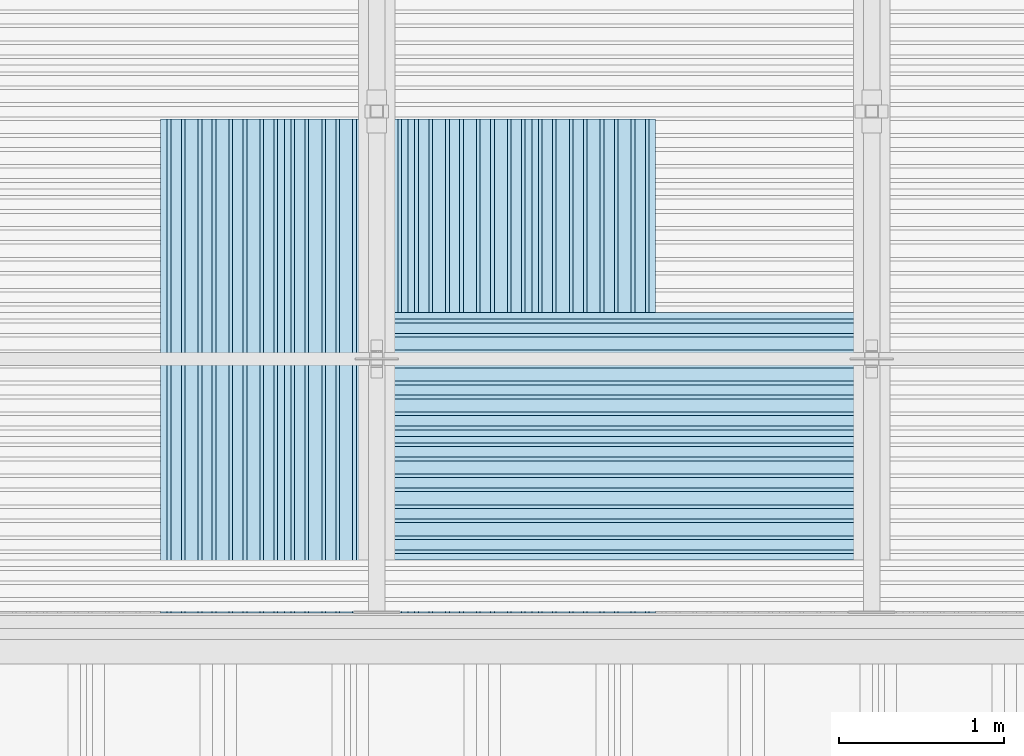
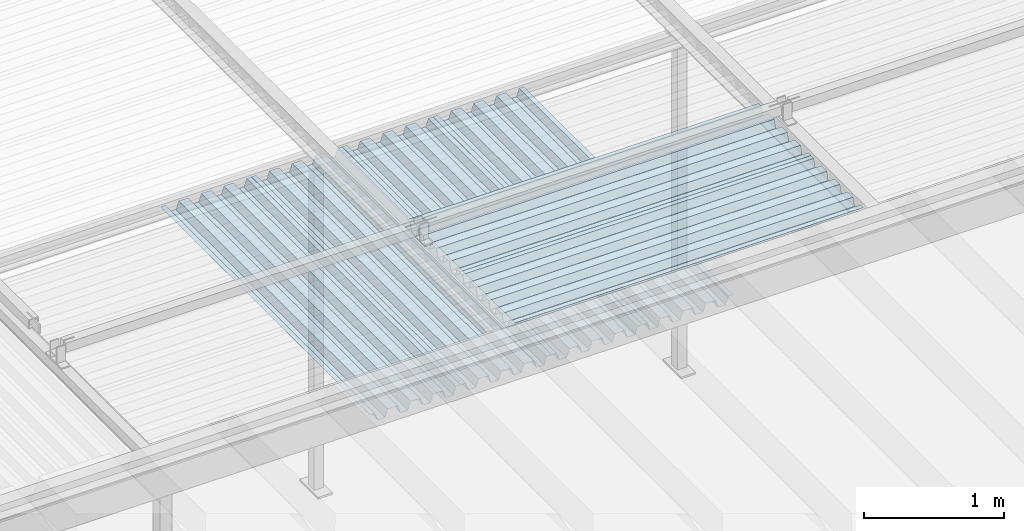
# One storey, part 69 of 98: 6 slabs.
"""IFC2X3 building model written with IfcOpenShell, lengths in millimetres."""

import ifcopenshell
import ifcopenshell.guid

model = None  # the IFC model being written
_history = None  # IfcOwnerHistory: only IFC2X3 demands one
_inside = {}  # id of a spatial element -> (the spatial element, [elements in it])
_under = {}  # id of a project, library or spatial element -> (it, [spatial elements below it])
_declared = {}  # id of a project -> (the project, [libraries it declares])
_typed = {}  # id of a type object -> (the type object, [elements of that type])
_made_of = {}  # id of a material, layer set ... -> (it, [elements and type objects made of it])


def new_model(schema):
    """Start an empty IFC model of exactly this schema.

    Asked for "IFC4X3", IfcOpenShell would pick the latest addendum, in which some entities
    have other attributes; the version numbers below select the first issue.
    IFC2X3 requires an IfcOwnerHistory on every rooted entity: one is made here for all.
    """
    global model, _history
    if schema == "IFC4X3":
        model = ifcopenshell.file(schema_version=(4, 3, 0, 0))
    else:
        model = ifcopenshell.file(schema=schema)
    _inside.clear()
    _under.clear()
    _declared.clear()
    _typed.clear()
    _made_of.clear()
    _history = None
    if model.schema == "IFC2X3":
        org = make("IfcOrganization", Name="unknown")
        user = make(
            "IfcPersonAndOrganization",
            ThePerson=make("IfcPerson", FamilyName="unknown"),
            TheOrganization=org,
        )
        app = make(
            "IfcApplication",
            ApplicationDeveloper=org,
            Version="unknown",
            ApplicationFullName="unknown",
            ApplicationIdentifier="unknown",
        )
        _history = make(
            "IfcOwnerHistory",
            OwningUser=user,
            OwningApplication=app,
            ChangeAction="ADDED",
            CreationDate=0,
        )
    return model


def make(cls, **values):
    """One entity of the class cls with the attributes given. An attribute that is None is left unset."""
    return model.create_entity(
        cls, **{name: value for name, value in values.items() if value is not None}
    )


def entity(cls, *values):
    """Any entity or typed value of the class cls, its attributes in the order of the schema. None: left unset."""
    e = model.create_entity(cls)
    for i, value in enumerate(values):
        if value is not None:
            e[i] = value
    return e


def rooted(cls, **values):
    """An entity with a GlobalId (a new one), such as an element, a storey or a relation."""
    return make(cls, GlobalId=ifcopenshell.guid.new(), OwnerHistory=_history, **values)


def si_unit(unit_type, name, prefix=None):
    """IfcSIUnit, for example si_unit("LENGTHUNIT", "METRE", prefix="MILLI")."""
    return make("IfcSIUnit", UnitType=unit_type, Prefix=prefix, Name=name)


def converted_unit(unit_type, name, factor, base, dimensions=None, offset=None):
    """IfcConversionBasedUnit, such as the inch: factor (a typed value) times the base unit."""
    return make(
        "IfcConversionBasedUnit"
        if offset is None
        else "IfcConversionBasedUnitWithOffset",
        ConversionOffset=offset,
        Dimensions=None
        if dimensions is None
        else entity("IfcDimensionalExponents", *dimensions),
        UnitType=unit_type,
        Name=name,
        ConversionFactor=make(
            "IfcMeasureWithUnit", ValueComponent=factor, UnitComponent=base
        ),
    )


def derived_unit(unit_type, elements):
    """IfcDerivedUnit: a product of units, each with its exponent."""
    return make(
        "IfcDerivedUnit",
        Elements=[
            make("IfcDerivedUnitElement", Unit=unit, Exponent=power)
            for unit, power in elements
        ],
        UnitType=unit_type,
    )


def assignment(units):
    """IfcUnitAssignment: the units of a project."""
    return None if units is None else make("IfcUnitAssignment", Units=units)


def point(xyz):
    """IfcCartesianPoint."""
    return None if xyz is None else make("IfcCartesianPoint", Coordinates=xyz)


def direction(xyz):
    """IfcDirection."""
    return None if xyz is None else make("IfcDirection", DirectionRatios=xyz)


def frame(location, z_axis=None, x_axis=None):
    """IfcAxis2Placement3D, a coordinate frame: its origin and axes. An axis left out is left unset."""
    return make(
        "IfcAxis2Placement3D",
        Location=point(location),
        Axis=direction(z_axis),
        RefDirection=direction(x_axis),
    )


def origin_with_axes():
    """The frame at (0, 0, 0) with the z axis (0, 0, 1) and the x axis (1, 0, 0) written out."""
    return frame((0.0, 0.0, 0.0), z_axis=(0.0, 0.0, 1.0), x_axis=(1.0, 0.0, 0.0))


def place(relative_to, where):
    """IfcLocalPlacement: puts the frame where relative to a parent placement (None: the world)."""
    return make(
        "IfcLocalPlacement", PlacementRelTo=relative_to, RelativePlacement=where
    )


def context(
    kind, dimensions, precision=None, world=None, true_north=None, identifier=None
):
    """IfcGeometricRepresentationContext, for example the 3D "Model" context."""
    return make(
        "IfcGeometricRepresentationContext",
        ContextIdentifier=identifier,
        ContextType=kind,
        CoordinateSpaceDimension=dimensions,
        Precision=precision,
        WorldCoordinateSystem=world,
        TrueNorth=true_north,
    )


def subcontext(parent, identifier, kind, view, scale=None):
    """IfcGeometricRepresentationSubContext, for example "Body" below "Model"."""
    return make(
        "IfcGeometricRepresentationSubContext",
        ContextIdentifier=identifier,
        ContextType=kind,
        ParentContext=parent,
        TargetScale=scale,
        TargetView=view,
    )


def project(units=None, contexts=None):
    """IfcProject with its units and contexts."""
    return rooted(
        "IfcProject",
        Name="project",
        RepresentationContexts=contexts,
        UnitsInContext=assignment(units),
    )


def spatial(cls, under=None, at=None, **own):
    """A site, building, storey or space (cls), placed at a placement, below another one or the project."""
    s = rooted(cls, ObjectPlacement=at, **own)
    if under is not None:
        _under.setdefault(under.id(), (under, []))[1].append(s)
    return s


def faces_of(points, faces, orient=None, outer=None):
    """IfcFace entities. A face is a list of loops; a loop is a list of indices into points, from 0.

    orient and outer hold one flag for each loop. By default every Orientation is true, the
    first loop of a face is its IfcFaceOuterBound and the others are IfcFaceBound.
    """
    made = []
    for i, loops in enumerate(faces):
        bounds = []
        for j, loop in enumerate(loops):
            is_outer = j == 0 if outer is None else outer[i][j]
            bounds.append(
                make(
                    "IfcFaceOuterBound" if is_outer else "IfcFaceBound",
                    Bound=make("IfcPolyLoop", Polygon=[points[k] for k in loop]),
                    Orientation=True if orient is None else orient[i][j],
                )
            )
        made.append(make("IfcFace", Bounds=bounds))
    return made


def faceted_brep(points, faces, orient=None, outer=None, voids=None):
    """IfcFacetedBrep: a solid bounded by flat faces; with voids (closed shells), ...WithVoids."""
    shared = [point(p) for p in points]
    hull = make("IfcClosedShell", CfsFaces=faces_of(shared, faces, orient, outer))
    if voids is None:
        return make("IfcFacetedBrep", Outer=hull)
    return make(
        "IfcFacetedBrepWithVoids",
        Outer=hull,
        Voids=[
            make(cls, CfsFaces=faces_of(shared, fs, o, b)) for cls, fs, o, b in voids
        ],
    )


def shape(context_of_items, identifier, shape_type, items):
    """IfcShapeRepresentation: the items that make up one representation, for example the "Body"."""
    return make(
        "IfcShapeRepresentation",
        ContextOfItems=context_of_items,
        RepresentationIdentifier=identifier,
        RepresentationType=shape_type,
        Items=items,
    )


def material(Name=None, Category=None):
    """IfcMaterial."""
    return make("IfcMaterial", Name=Name, Category=Category)


def made_of(thing, what):
    """Note that an element or type object is made of a material, layer set ...; save() writes the relation."""
    if what is not None:
        _made_of.setdefault(what.id(), (what, []))[1].append(thing)
    return thing


def type_object(cls, material=None, **own):
    """A type object (cls), such as IfcWallType, which elements share."""
    return made_of(rooted(cls, **own), material)


def element(
    cls,
    number,
    at=None,
    inside=None,
    cuts=None,
    type_object=None,
    material=None,
    context=None,
    identifier="Body",
    shape_type=None,
    held_by="IfcProductDefinitionShape",
    body=None,
    shapes=None,
    **own,
):
    """One element of the class cls, such as IfcWall. Its Tag is "e" and its number.

    at: its placement. inside: the storey or other place that contains it. cuts: it is an
    opening in that element (IfcRelVoidsElement). A single representation is given by context,
    identifier, shape_type and body (its items); several are given by shapes. held_by: the class
    of the entity that holds the representations. save() writes the other relations.
    """
    e = rooted(cls, Tag="e%d" % number, ObjectPlacement=at, **own)
    if body is not None:
        shapes = [shape(context, identifier, shape_type, body)]
    if shapes is not None:
        e.Representation = make(held_by, Representations=shapes)
    if inside is not None:
        _inside.setdefault(inside.id(), (inside, []))[1].append(e)
    if cuts is not None:
        rooted(
            "IfcRelVoidsElement", RelatingBuildingElement=cuts, RelatedOpeningElement=e
        )
    if type_object is not None:
        _typed.setdefault(type_object.id(), (type_object, []))[1].append(e)
    return made_of(e, material)


def aggregate(whole, parts):
    """IfcRelAggregates: a whole, such as a stair, and the parts it consists of."""
    return rooted("IfcRelAggregates", RelatingObject=whole, RelatedObjects=parts)


def save(model, path):
    """Write the relations noted so far, then the file.

    IfcRelAggregates (storeys below a building ...), IfcRelContainedInSpatialStructure (elements
    in a storey), IfcRelDefinesByType, IfcRelAssociatesMaterial and IfcRelDeclares: one each for
    every whole, place, type object, material and project.
    """
    for whole, parts in _under.values():
        aggregate(whole, parts)
    for where, things in _inside.values():
        rooted(
            "IfcRelContainedInSpatialStructure",
            RelatedElements=things,
            RelatingStructure=where,
        )
    for kind, things in _typed.values():
        rooted("IfcRelDefinesByType", RelatedObjects=things, RelatingType=kind)
    for what, things in _made_of.values():
        rooted("IfcRelAssociatesMaterial", RelatedObjects=things, RelatingMaterial=what)
    for by, libraries in _declared.values():
        rooted("IfcRelDeclares", RelatingContext=by, RelatedDefinitions=libraries)
    model.write(path)


model = new_model("IFC2X3")

# Units and contexts
model_context = context("Model", 3, precision=0.01, world=frame((0.0, 4.29681676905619e-09, 0.0)), true_north=direction((4.01073788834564e-13, 1.0)))
plan_context = context("Plan", 3, precision=0.01, world=frame((0.0, 4.29681676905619e-09, 0.0)), true_north=direction((4.01073788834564e-13, 1.0)))
body_context = subcontext(model_context, "Body", "Model", "MODEL_VIEW")
ifc_project = project(units=[converted_unit("PLANEANGLEUNIT", "DEGREE", entity("IfcPositiveLengthMeasure", 0.0174532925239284), si_unit("PLANEANGLEUNIT", "RADIAN"), dimensions=[0, 0, 0, 0, 0, 0, 0]), si_unit("AREAUNIT", "SQUARE_METRE"), si_unit("LENGTHUNIT", "METRE", prefix="MILLI"), si_unit("MASSUNIT", "GRAM", prefix="KILO"), si_unit("POWERUNIT", "WATT"), si_unit("PRESSUREUNIT", "PASCAL"), si_unit("FORCEUNIT", "NEWTON", prefix="KILO"), si_unit("ELECTRICCURRENTUNIT", "AMPERE"), si_unit("THERMODYNAMICTEMPERATUREUNIT", "DEGREE_CELSIUS"), si_unit("TIMEUNIT", "SECOND"), si_unit("VOLUMEUNIT", "CUBIC_METRE"), derived_unit("LINEARVELOCITYUNIT", [(si_unit("LENGTHUNIT", "METRE"), 1), (si_unit("TIMEUNIT", "SECOND"), -1)]), derived_unit("VOLUMETRICFLOWRATEUNIT", [(si_unit("VOLUMEUNIT", "CUBIC_METRE"), 1), (si_unit("TIMEUNIT", "SECOND"), -1)]), derived_unit("THERMALTRANSMITTANCEUNIT", [(si_unit("POWERUNIT", "WATT"), 1), (si_unit("THERMODYNAMICTEMPERATUREUNIT", "KELVIN"), -1), (si_unit("AREAUNIT", "SQUARE_METRE"), -1)])], contexts=[model_context, plan_context])

# Site, building, storey
site_placement = place(None, frame((0.0, -4.29681676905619e-09, 0.0), z_axis=(0.0, 0.0, 1.0), x_axis=(1.0, 0.0, 0.0)))
site = spatial("IfcSite", under=ifc_project, at=site_placement, Name="Gardermoen", CompositionType="ELEMENT")
building_placement = place(site_placement, frame((0.0, 4.29681676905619e-09, 0.0), z_axis=(0.0, 0.0, 1.0), x_axis=(1.0, 0.0, 0.0)))
building = spatial("IfcBuilding", under=site, at=building_placement, Name="TS", CompositionType="ELEMENT")
storey_placement = place(building_placement, origin_with_axes())
storey = spatial("IfcBuildingStorey", under=building, at=storey_placement, Name="D", CompositionType="ELEMENT", Elevation=0.0)

# Slabs
ifc_material = material(Name="STEEL/S355")
slab_type = type_object("IfcSlabType", Name="PLANJA70", PredefinedType="NOTDEFINED")
slab_1_placement = place(storey_placement, frame((525950.000000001, 415154.996695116, 206958.849718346), z_axis=(0.0, 0.0, 1.0), x_axis=(-0.999999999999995, -9.99999902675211e-08, 0.0)))
element("IfcSlab", 1, at=slab_1_placement, inside=storey, type_object=slab_type, material=ifc_material, Name="STÅLTAK", ObjectType="PLANJA70", PredefinedType="FLOOR", context=body_context, shape_type="Brep", body=[
    faceted_brep([(0.0, 375.0, 34.1500015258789), (0.0, 335.299987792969, 34.1500015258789), (2900.00079747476, 335.299987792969, 34.1500015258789), (2900.00079747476, 375.0, 34.1500015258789), (0.0, 313.010681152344, -32.1500015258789), (2900.00079747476, 313.010681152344, -32.1500015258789), (0.0, 249.489303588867, -32.1500015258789), (2900.00079747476, 249.489303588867, -32.1500015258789), (0.0, 227.199996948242, 34.1500015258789), (2900.00079747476, 227.199996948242, 34.1500015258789), (0.0, 147.800003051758, 34.1500015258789), (2900.00079747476, 147.800003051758, 34.1500015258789), (0.0, 125.280120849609, -33.1500015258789), (2900.00079747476, 125.280120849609, -33.1500015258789), (0.0, 62.2198791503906, -33.1500015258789), (2900.00079747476, 62.2198791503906, -33.1500015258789), (0.0, 39.7000007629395, 34.1500015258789), (2900.00079747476, 39.7000007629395, 34.1500015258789), (0.0, -39.7000007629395, 34.1500015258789), (2900.00079747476, -39.7000007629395, 34.1500015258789), (0.0, -62.2198791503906, -33.1500015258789), (2900.00079747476, -62.2198791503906, -33.1500015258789), (0.0, -125.280120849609, -33.1500015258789), (2900.00079747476, -125.280120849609, -33.1500015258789), (0.0, -147.800003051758, 34.1500015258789), (2900.00079747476, -147.800003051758, 34.1500015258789), (0.0, -227.199996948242, 34.1500015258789), (2900.00079747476, -227.199996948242, 34.1500015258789), (0.0, -249.719879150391, -33.1500015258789), (2900.00079747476, -249.719879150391, -33.1500015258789), (0.0, -312.781188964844, -33.1500015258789), (2900.00079747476, -312.781188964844, -33.1500015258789), (0.0, -335.070495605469, 33.1500015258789), (2900.00079747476, -335.070495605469, 33.1500015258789), (0.0, -375.0, 33.1500015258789), (2900.00079747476, -375.0, 33.1500015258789), (0.0, -375.0, 32.1500015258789), (2900.00079747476, -375.0, 32.1500015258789), (0.0, -335.789306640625, 32.1500015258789), (2900.00079747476, -335.789306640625, 32.1500015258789), (0.0, -313.5, -34.1500015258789), (2900.00079747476, -313.5, -34.1500015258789), (0.0, -249.0, -34.1500015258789), (2900.00079747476, -249.0, -34.1500015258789), (0.0, -226.480117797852, 33.1500015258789), (2900.00079747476, -226.480117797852, 33.1500015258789), (0.0, -148.519882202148, 33.1500015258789), (2900.00079747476, -148.519882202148, 33.1500015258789), (0.0, -126.0, -34.1500015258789), (2900.00079747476, -126.0, -34.1500015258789), (0.0, -61.5, -34.1500015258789), (2900.00079747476, -61.5, -34.1500015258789), (0.0, -38.9801177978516, 33.1500015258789), (2900.00079747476, -38.9801177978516, 33.1500015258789), (0.0, 38.9801177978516, 33.1500015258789), (2900.00079747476, 38.9801177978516, 33.1500015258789), (0.0, 61.5, -34.1500015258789), (2900.00079747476, 61.5, -34.1500015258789), (0.0, 126.0, -34.1500015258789), (2900.00079747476, 126.0, -34.1500015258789), (0.0, 148.519882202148, 33.1500015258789), (2900.00079747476, 148.519882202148, 33.1500015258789), (0.0, 226.481185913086, 33.1500015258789), (2900.00079747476, 226.481185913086, 33.1500015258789), (0.0, 248.770492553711, -33.1500015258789), (2900.00079747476, 248.770492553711, -33.1500015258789), (0.0, 313.7294921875, -33.1500015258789), (2900.00079747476, 313.7294921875, -33.1500015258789), (0.0, 336.018798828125, 33.1500015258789), (2900.00079747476, 336.018798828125, 33.1500015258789), (0.0, 375.0, 33.1500015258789), (2900.00079747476, 375.0, 33.1500015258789)], [[[0, 1, 2, 3]], [[1, 4, 5, 2]], [[4, 6, 7, 5]], [[6, 8, 9, 7]], [[8, 10, 11, 9]], [[10, 12, 13, 11]], [[12, 14, 15, 13]], [[14, 16, 17, 15]], [[16, 18, 19, 17]], [[18, 20, 21, 19]], [[22, 23, 21, 20]], [[22, 24, 25, 23]], [[24, 26, 27, 25]], [[26, 28, 29, 27]], [[28, 30, 31, 29]], [[30, 32, 33, 31]], [[32, 34, 35, 33]], [[34, 36, 37, 35]], [[36, 38, 39, 37]], [[38, 40, 41, 39]], [[40, 42, 43, 41]], [[42, 44, 45, 43]], [[44, 46, 47, 45]], [[46, 48, 49, 47]], [[48, 50, 51, 49]], [[50, 52, 53, 51]], [[52, 54, 55, 53]], [[54, 56, 57, 55]], [[56, 58, 59, 57]], [[58, 60, 61, 59]], [[60, 62, 63, 61]], [[62, 64, 65, 63]], [[64, 66, 67, 65]], [[66, 68, 69, 67]], [[68, 70, 71, 69]], [[70, 0, 3, 71]], [[5, 7, 9, 11, 13, 15, 17, 19, 21, 23, 25, 27, 29, 31, 33, 35, 37, 39, 41, 43, 45, 47, 49, 51, 53, 55, 57, 59, 61, 63, 65, 67, 69, 71, 3, 2]], [[70, 68, 66, 64, 62, 60, 58, 56, 54, 52, 50, 48, 46, 44, 42, 40, 38, 36, 34, 32, 30, 28, 26, 24, 22, 20, 18, 16, 14, 12, 10, 8, 6, 4, 1, 0]]]),
])
slab_2_placement = place(storey_placement, frame((525950.000000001, 415904.996695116, 206958.849718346), z_axis=(0.0, 0.0, 1.0), x_axis=(-0.999999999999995, -9.99999902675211e-08, 0.0)))
element("IfcSlab", 2, at=slab_2_placement, inside=storey, type_object=slab_type, material=ifc_material, Name="STÅLTAK", ObjectType="PLANJA70", PredefinedType="FLOOR", context=body_context, shape_type="Brep", body=[
    faceted_brep([(0.0, 375.0, 34.1500015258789), (0.0, 335.299987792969, 34.1500015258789), (2900.00079747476, 335.299987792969, 34.1500015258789), (2900.00079747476, 375.0, 34.1500015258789), (0.0, 313.010681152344, -32.1500015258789), (2900.00079747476, 313.010681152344, -32.1500015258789), (0.0, 249.489303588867, -32.1500015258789), (2900.00079747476, 249.489303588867, -32.1500015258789), (0.0, 227.199996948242, 34.1500015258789), (2900.00079747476, 227.199996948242, 34.1500015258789), (0.0, 147.800003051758, 34.1500015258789), (2900.00079747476, 147.800003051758, 34.1500015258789), (0.0, 125.280120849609, -33.1500015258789), (2900.00079747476, 125.280120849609, -33.1500015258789), (0.0, 62.2198791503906, -33.1500015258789), (2900.00079747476, 62.2198791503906, -33.1500015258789), (0.0, 39.7000007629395, 34.1500015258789), (2900.00079747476, 39.7000007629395, 34.1500015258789), (0.0, -39.7000007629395, 34.1500015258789), (2900.00079747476, -39.7000007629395, 34.1500015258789), (0.0, -62.2198791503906, -33.1500015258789), (2900.00079747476, -62.2198791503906, -33.1500015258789), (0.0, -125.280120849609, -33.1500015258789), (2900.00079747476, -125.280120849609, -33.1500015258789), (0.0, -147.800003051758, 34.1500015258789), (2900.00079747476, -147.800003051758, 34.1500015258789), (0.0, -227.199996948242, 34.1500015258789), (2900.00079747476, -227.199996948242, 34.1500015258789), (0.0, -249.719879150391, -33.1500015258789), (2900.00079747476, -249.719879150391, -33.1500015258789), (0.0, -312.781188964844, -33.1500015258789), (2900.00079747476, -312.781188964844, -33.1500015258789), (0.0, -335.070495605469, 33.1500015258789), (2900.00079747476, -335.070495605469, 33.1500015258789), (0.0, -375.0, 33.1500015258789), (2900.00079747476, -375.0, 33.1500015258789), (0.0, -375.0, 32.1500015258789), (2900.00079747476, -375.0, 32.1500015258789), (0.0, -335.789306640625, 32.1500015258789), (2900.00079747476, -335.789306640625, 32.1500015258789), (0.0, -313.5, -34.1500015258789), (2900.00079747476, -313.5, -34.1500015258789), (0.0, -249.0, -34.1500015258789), (2900.00079747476, -249.0, -34.1500015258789), (0.0, -226.480117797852, 33.1500015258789), (2900.00079747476, -226.480117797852, 33.1500015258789), (0.0, -148.519882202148, 33.1500015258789), (2900.00079747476, -148.519882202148, 33.1500015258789), (0.0, -126.0, -34.1500015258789), (2900.00079747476, -126.0, -34.1500015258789), (0.0, -61.5, -34.1500015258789), (2900.00079747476, -61.5, -34.1500015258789), (0.0, -38.9801177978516, 33.1500015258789), (2900.00079747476, -38.9801177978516, 33.1500015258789), (0.0, 38.9801177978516, 33.1500015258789), (2900.00079747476, 38.9801177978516, 33.1500015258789), (0.0, 61.5, -34.1500015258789), (2900.00079747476, 61.5, -34.1500015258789), (0.0, 126.0, -34.1500015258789), (2900.00079747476, 126.0, -34.1500015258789), (0.0, 148.519882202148, 33.1500015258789), (2900.00079747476, 148.519882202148, 33.1500015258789), (0.0, 226.481185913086, 33.1500015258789), (2900.00079747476, 226.481185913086, 33.1500015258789), (0.0, 248.770492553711, -33.1500015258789), (2900.00079747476, 248.770492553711, -33.1500015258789), (0.0, 313.7294921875, -33.1500015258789), (2900.00079747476, 313.7294921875, -33.1500015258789), (0.0, 336.018798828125, 33.1500015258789), (2900.00079747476, 336.018798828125, 33.1500015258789), (0.0, 375.0, 33.1500015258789), (2900.00079747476, 375.0, 33.1500015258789)], [[[0, 1, 2, 3]], [[1, 4, 5, 2]], [[4, 6, 7, 5]], [[6, 8, 9, 7]], [[8, 10, 11, 9]], [[10, 12, 13, 11]], [[12, 14, 15, 13]], [[14, 16, 17, 15]], [[16, 18, 19, 17]], [[18, 20, 21, 19]], [[22, 23, 21, 20]], [[22, 24, 25, 23]], [[24, 26, 27, 25]], [[26, 28, 29, 27]], [[28, 30, 31, 29]], [[30, 32, 33, 31]], [[32, 34, 35, 33]], [[34, 36, 37, 35]], [[36, 38, 39, 37]], [[38, 40, 41, 39]], [[40, 42, 43, 41]], [[42, 44, 45, 43]], [[44, 46, 47, 45]], [[46, 48, 49, 47]], [[48, 50, 51, 49]], [[50, 52, 53, 51]], [[52, 54, 55, 53]], [[54, 56, 57, 55]], [[56, 58, 59, 57]], [[58, 60, 61, 59]], [[60, 62, 63, 61]], [[62, 64, 65, 63]], [[64, 66, 67, 65]], [[66, 68, 69, 67]], [[68, 70, 71, 69]], [[70, 0, 3, 71]], [[5, 7, 9, 11, 13, 15, 17, 19, 21, 23, 25, 27, 29, 31, 33, 35, 37, 39, 41, 43, 45, 47, 49, 51, 53, 55, 57, 59, 61, 63, 65, 67, 69, 71, 3, 2]], [[70, 68, 66, 64, 62, 60, 58, 56, 54, 52, 50, 48, 46, 44, 42, 40, 38, 36, 34, 32, 30, 28, 26, 24, 22, 20, 18, 16, 14, 12, 10, 8, 6, 4, 1, 0]]]),
])
slab_3_placement = place(storey_placement, frame((522064.996695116, 414458.999999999, 206834.129718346), z_axis=(0.0, 0.0, 1.0), x_axis=(0.0, 1.0, 0.0)))
element("IfcSlab", 3, at=slab_3_placement, inside=storey, type_object=slab_type, material=ifc_material, Name="STÅLTAK", ObjectType="PLANJA70", PredefinedType="FLOOR", context=body_context, shape_type="Brep", body=[
    faceted_brep([(0.0, 375.0, 34.1500015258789), (0.0, 335.299987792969, 34.1500015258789), (2995.66049790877, 335.299987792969, 34.1500015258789), (2995.66049790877, 375.0, 34.1500015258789), (0.0, 313.010681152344, -32.1500015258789), (2995.66049790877, 313.010681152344, -32.1500015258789), (0.0, 249.489303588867, -32.1500015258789), (2995.66049790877, 249.489303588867, -32.1500015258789), (0.0, 227.199996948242, 34.1500015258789), (2995.66049790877, 227.199996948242, 34.1500015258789), (0.0, 147.800003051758, 34.1500015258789), (2995.66049790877, 147.800003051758, 34.1500015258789), (0.0, 125.280120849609, -33.1500015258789), (2995.66049790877, 125.280120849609, -33.1500015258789), (0.0, 62.2198791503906, -33.1500015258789), (2995.66049790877, 62.2198791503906, -33.1500015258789), (0.0, 39.7000007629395, 34.1500015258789), (2995.66049790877, 39.7000007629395, 34.1500015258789), (0.0, -39.7000007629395, 34.1500015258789), (2995.66049790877, -39.7000007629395, 34.1500015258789), (0.0, -62.2198791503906, -33.1500015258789), (2995.66049790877, -62.2198791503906, -33.1500015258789), (0.0, -125.280120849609, -33.1500015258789), (2995.66049790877, -125.280120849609, -33.1500015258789), (0.0, -147.800003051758, 34.1500015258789), (2995.66049790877, -147.800003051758, 34.1500015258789), (0.0, -227.199996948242, 34.1500015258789), (2995.66049790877, -227.199996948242, 34.1500015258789), (0.0, -249.719879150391, -33.1500015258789), (2995.66049790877, -249.719879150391, -33.1500015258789), (0.0, -312.781188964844, -33.1500015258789), (2995.66049790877, -312.781188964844, -33.1500015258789), (0.0, -335.070495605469, 33.1500015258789), (2995.66049790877, -335.070495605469, 33.1500015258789), (0.0, -375.0, 33.1500015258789), (2995.66049790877, -375.0, 33.1500015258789), (0.0, -375.0, 32.1500015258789), (2995.66049790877, -375.0, 32.1500015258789), (0.0, -335.789306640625, 32.1500015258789), (2995.66049790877, -335.789306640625, 32.1500015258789), (0.0, -313.5, -34.1500015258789), (2995.66049790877, -313.5, -34.1500015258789), (0.0, -249.0, -34.1500015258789), (2995.66049790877, -249.0, -34.1500015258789), (0.0, -226.480117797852, 33.1500015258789), (2995.66049790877, -226.480117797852, 33.1500015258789), (0.0, -148.519882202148, 33.1500015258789), (2995.66049790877, -148.519882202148, 33.1500015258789), (0.0, -126.0, -34.1500015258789), (2995.66049790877, -126.0, -34.1500015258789), (0.0, -61.5, -34.1500015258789), (2995.66049790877, -61.5, -34.1500015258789), (0.0, -38.9801177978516, 33.1500015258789), (2995.66049790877, -38.9801177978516, 33.1500015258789), (0.0, 38.9801177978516, 33.1500015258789), (2995.66049790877, 38.9801177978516, 33.1500015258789), (0.0, 61.5, -34.1500015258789), (2995.66049790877, 61.5, -34.1500015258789), (0.0, 126.0, -34.1500015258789), (2995.66049790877, 126.0, -34.1500015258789), (0.0, 148.519882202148, 33.1500015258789), (2995.66049790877, 148.519882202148, 33.1500015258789), (0.0, 226.481185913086, 33.1500015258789), (2995.66049790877, 226.481185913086, 33.1500015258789), (0.0, 248.770492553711, -33.1500015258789), (2995.66049790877, 248.770492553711, -33.1500015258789), (0.0, 313.7294921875, -33.1500015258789), (2995.66049790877, 313.7294921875, -33.1500015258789), (0.0, 336.018798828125, 33.1500015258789), (2995.66049790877, 336.018798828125, 33.1500015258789), (0.0, 375.0, 33.1500015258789), (2995.66049790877, 375.0, 33.1500015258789)], [[[0, 1, 2, 3]], [[1, 4, 5, 2]], [[4, 6, 7, 5]], [[6, 8, 9, 7]], [[8, 10, 11, 9]], [[10, 12, 13, 11]], [[12, 14, 15, 13]], [[14, 16, 17, 15]], [[16, 18, 19, 17]], [[18, 20, 21, 19]], [[20, 22, 23, 21]], [[22, 24, 25, 23]], [[24, 26, 27, 25]], [[26, 28, 29, 27]], [[28, 30, 31, 29]], [[30, 32, 33, 31]], [[32, 34, 35, 33]], [[34, 36, 37, 35]], [[36, 38, 39, 37]], [[38, 40, 41, 39]], [[40, 42, 43, 41]], [[42, 44, 45, 43]], [[44, 46, 47, 45]], [[46, 48, 49, 47]], [[48, 50, 51, 49]], [[50, 52, 53, 51]], [[52, 54, 55, 53]], [[54, 56, 57, 55]], [[56, 58, 59, 57]], [[58, 60, 61, 59]], [[60, 62, 63, 61]], [[62, 64, 65, 63]], [[64, 66, 67, 65]], [[66, 68, 69, 67]], [[68, 70, 71, 69]], [[70, 0, 3, 71]], [[5, 7, 9, 11, 13, 15, 17, 19, 21, 23, 25, 27, 29, 31, 33, 35, 37, 39, 41, 43, 45, 47, 49, 51, 53, 55, 57, 59, 61, 63, 65, 67, 69, 71, 3, 2]], [[70, 68, 66, 64, 62, 60, 58, 56, 54, 52, 50, 48, 46, 44, 42, 40, 38, 36, 34, 32, 30, 28, 26, 24, 22, 20, 18, 16, 14, 12, 10, 8, 6, 4, 1, 0]]]),
])
slab_4_placement = place(storey_placement, frame((522814.996695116, 414458.999999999, 206834.129718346), z_axis=(0.0, 0.0, 1.0), x_axis=(0.0, 1.0, 0.0)))
element("IfcSlab", 4, at=slab_4_placement, inside=storey, type_object=slab_type, material=ifc_material, Name="STÅLTAK", ObjectType="PLANJA70", PredefinedType="FLOOR", context=body_context, shape_type="Brep", body=[
    faceted_brep([(0.0, 375.0, 34.1500015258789), (0.0, 335.299987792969, 34.1500015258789), (2995.66049790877, 335.299987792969, 34.1500015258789), (2995.66049790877, 375.0, 34.1500015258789), (0.0, 313.010681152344, -32.1500015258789), (2995.66049790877, 313.010681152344, -32.1500015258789), (0.0, 249.489303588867, -32.1500015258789), (2995.66049790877, 249.489303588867, -32.1500015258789), (0.0, 227.199996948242, 34.1500015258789), (2995.66049790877, 227.199996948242, 34.1500015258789), (0.0, 147.800003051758, 34.1500015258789), (2995.66049790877, 147.800003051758, 34.1500015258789), (0.0, 125.280120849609, -33.1500015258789), (2995.66049790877, 125.280120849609, -33.1500015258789), (0.0, 62.2198791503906, -33.1500015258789), (2995.66049790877, 62.2198791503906, -33.1500015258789), (0.0, 39.7000007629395, 34.1500015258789), (2995.66049790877, 39.7000007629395, 34.1500015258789), (0.0, -39.7000007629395, 34.1500015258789), (2995.66049790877, -39.7000007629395, 34.1500015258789), (0.0, -62.2198791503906, -33.1500015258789), (2995.66049790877, -62.2198791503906, -33.1500015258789), (0.0, -125.280120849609, -33.1500015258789), (2995.66049790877, -125.280120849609, -33.1500015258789), (0.0, -147.800003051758, 34.1500015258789), (2995.66049790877, -147.800003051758, 34.1500015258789), (0.0, -227.199996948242, 34.1500015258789), (2995.66049790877, -227.199996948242, 34.1500015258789), (0.0, -249.719879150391, -33.1500015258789), (2995.66049790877, -249.719879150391, -33.1500015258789), (0.0, -312.781188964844, -33.1500015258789), (2995.66049790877, -312.781188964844, -33.1500015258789), (0.0, -335.070495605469, 33.1500015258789), (2995.66049790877, -335.070495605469, 33.1500015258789), (0.0, -375.0, 33.1500015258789), (2995.66049790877, -375.0, 33.1500015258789), (0.0, -375.0, 32.1500015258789), (2995.66049790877, -375.0, 32.1500015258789), (0.0, -335.789306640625, 32.1500015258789), (2995.66049790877, -335.789306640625, 32.1500015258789), (0.0, -313.5, -34.1500015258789), (2995.66049790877, -313.5, -34.1500015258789), (0.0, -249.0, -34.1500015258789), (2995.66049790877, -249.0, -34.1500015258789), (0.0, -226.480117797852, 33.1500015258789), (2995.66049790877, -226.480117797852, 33.1500015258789), (0.0, -148.519882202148, 33.1500015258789), (2995.66049790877, -148.519882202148, 33.1500015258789), (0.0, -126.0, -34.1500015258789), (2995.66049790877, -126.0, -34.1500015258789), (0.0, -61.5, -34.1500015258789), (2995.66049790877, -61.5, -34.1500015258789), (0.0, -38.9801177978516, 33.1500015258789), (2995.66049790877, -38.9801177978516, 33.1500015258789), (0.0, 38.9801177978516, 33.1500015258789), (2995.66049790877, 38.9801177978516, 33.1500015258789), (0.0, 61.5, -34.1500015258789), (2995.66049790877, 61.5, -34.1500015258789), (0.0, 126.0, -34.1500015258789), (2995.66049790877, 126.0, -34.1500015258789), (0.0, 148.519882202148, 33.1500015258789), (2995.66049790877, 148.519882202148, 33.1500015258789), (0.0, 226.481185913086, 33.1500015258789), (2995.66049790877, 226.481185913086, 33.1500015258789), (0.0, 248.770492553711, -33.1500015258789), (2995.66049790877, 248.770492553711, -33.1500015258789), (0.0, 313.7294921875, -33.1500015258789), (2995.66049790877, 313.7294921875, -33.1500015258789), (0.0, 336.018798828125, 33.1500015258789), (2995.66049790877, 336.018798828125, 33.1500015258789), (0.0, 375.0, 33.1500015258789), (2995.66049790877, 375.0, 33.1500015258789)], [[[0, 1, 2, 3]], [[1, 4, 5, 2]], [[4, 6, 7, 5]], [[6, 8, 9, 7]], [[8, 10, 11, 9]], [[10, 12, 13, 11]], [[12, 14, 15, 13]], [[14, 16, 17, 15]], [[16, 18, 19, 17]], [[18, 20, 21, 19]], [[20, 22, 23, 21]], [[22, 24, 25, 23]], [[24, 26, 27, 25]], [[26, 28, 29, 27]], [[28, 30, 31, 29]], [[30, 32, 33, 31]], [[32, 34, 35, 33]], [[34, 36, 37, 35]], [[36, 38, 39, 37]], [[38, 40, 41, 39]], [[40, 42, 43, 41]], [[42, 44, 45, 43]], [[44, 46, 47, 45]], [[46, 48, 49, 47]], [[48, 50, 51, 49]], [[50, 52, 53, 51]], [[52, 54, 55, 53]], [[54, 56, 57, 55]], [[56, 58, 59, 57]], [[58, 60, 61, 59]], [[60, 62, 63, 61]], [[62, 64, 65, 63]], [[64, 66, 67, 65]], [[66, 68, 69, 67]], [[68, 70, 71, 69]], [[70, 0, 3, 71]], [[5, 7, 9, 11, 13, 15, 17, 19, 21, 23, 25, 27, 29, 31, 33, 35, 37, 39, 41, 43, 45, 47, 49, 51, 53, 55, 57, 59, 61, 63, 65, 67, 69, 71, 3, 2]], [[70, 68, 66, 64, 62, 60, 58, 56, 54, 52, 50, 48, 46, 44, 42, 40, 38, 36, 34, 32, 30, 28, 26, 24, 22, 20, 18, 16, 14, 12, 10, 8, 6, 4, 1, 0]]]),
])
slab_5_placement = place(storey_placement, frame((523564.996695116, 414458.999999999, 206834.129718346), z_axis=(0.0, 0.0, 1.0), x_axis=(0.0, 1.0, 0.0)))
element("IfcSlab", 5, at=slab_5_placement, inside=storey, type_object=slab_type, material=ifc_material, Name="STÅLTAK", ObjectType="PLANJA70", PredefinedType="FLOOR", context=body_context, shape_type="Brep", body=[
    faceted_brep([(0.0, 375.0, 34.1500015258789), (0.0, 335.299987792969, 34.1500015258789), (2995.66049790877, 335.299987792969, 34.1500015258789), (2995.66049790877, 375.0, 34.1500015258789), (0.0, 313.010681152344, -32.1500015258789), (2995.66049790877, 313.010681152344, -32.1500015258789), (0.0, 249.489303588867, -32.1500015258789), (2995.66049790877, 249.489303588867, -32.1500015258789), (0.0, 227.199996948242, 34.1500015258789), (2995.66049790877, 227.199996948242, 34.1500015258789), (0.0, 147.800003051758, 34.1500015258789), (2995.66049790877, 147.800003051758, 34.1500015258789), (0.0, 125.280120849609, -33.1500015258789), (2995.66049790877, 125.280120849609, -33.1500015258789), (0.0, 62.2198791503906, -33.1500015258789), (2995.66049790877, 62.2198791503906, -33.1500015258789), (0.0, 39.7000007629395, 34.1500015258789), (2995.66049790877, 39.7000007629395, 34.1500015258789), (0.0, -39.7000007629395, 34.1500015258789), (2995.66049790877, -39.7000007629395, 34.1500015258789), (0.0, -62.2198791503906, -33.1500015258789), (2995.66049790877, -62.2198791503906, -33.1500015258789), (0.0, -125.280120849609, -33.1500015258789), (2995.66049790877, -125.280120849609, -33.1500015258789), (0.0, -147.800003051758, 34.1500015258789), (2995.66049790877, -147.800003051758, 34.1500015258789), (0.0, -227.199996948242, 34.1500015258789), (2995.66049790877, -227.199996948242, 34.1500015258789), (0.0, -249.719879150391, -33.1500015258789), (2995.66049790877, -249.719879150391, -33.1500015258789), (0.0, -312.781188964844, -33.1500015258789), (2995.66049790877, -312.781188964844, -33.1500015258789), (0.0, -335.070495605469, 33.1500015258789), (2995.66049790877, -335.070495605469, 33.1500015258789), (0.0, -375.0, 33.1500015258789), (2995.66049790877, -375.0, 33.1500015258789), (0.0, -375.0, 32.1500015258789), (2995.66049790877, -375.0, 32.1500015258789), (0.0, -335.789306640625, 32.1500015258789), (2995.66049790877, -335.789306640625, 32.1500015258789), (0.0, -313.5, -34.1500015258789), (2995.66049790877, -313.5, -34.1500015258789), (0.0, -249.0, -34.1500015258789), (2995.66049790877, -249.0, -34.1500015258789), (0.0, -226.480117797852, 33.1500015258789), (2995.66049790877, -226.480117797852, 33.1500015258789), (0.0, -148.519882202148, 33.1500015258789), (2995.66049790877, -148.519882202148, 33.1500015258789), (0.0, -126.0, -34.1500015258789), (2995.66049790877, -126.0, -34.1500015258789), (0.0, -61.5, -34.1500015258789), (2995.66049790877, -61.5, -34.1500015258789), (0.0, -38.9801177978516, 33.1500015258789), (2995.66049790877, -38.9801177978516, 33.1500015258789), (0.0, 38.9801177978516, 33.1500015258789), (2995.66049790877, 38.9801177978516, 33.1500015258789), (0.0, 61.5, -34.1500015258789), (2995.66049790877, 61.5, -34.1500015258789), (0.0, 126.0, -34.1500015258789), (2995.66049790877, 126.0, -34.1500015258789), (0.0, 148.519882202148, 33.1500015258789), (2995.66049790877, 148.519882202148, 33.1500015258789), (0.0, 226.481185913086, 33.1500015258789), (2995.66049790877, 226.481185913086, 33.1500015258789), (0.0, 248.770492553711, -33.1500015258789), (2995.66049790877, 248.770492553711, -33.1500015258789), (0.0, 313.7294921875, -33.1500015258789), (2995.66049790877, 313.7294921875, -33.1500015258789), (0.0, 336.018798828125, 33.1500015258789), (2995.66049790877, 336.018798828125, 33.1500015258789), (0.0, 375.0, 33.1500015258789), (2995.66049790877, 375.0, 33.1500015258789)], [[[0, 1, 2, 3]], [[1, 4, 5, 2]], [[4, 6, 7, 5]], [[6, 8, 9, 7]], [[8, 10, 11, 9]], [[10, 12, 13, 11]], [[12, 14, 15, 13]], [[14, 16, 17, 15]], [[16, 18, 19, 17]], [[18, 20, 21, 19]], [[20, 22, 23, 21]], [[22, 24, 25, 23]], [[24, 26, 27, 25]], [[26, 28, 29, 27]], [[28, 30, 31, 29]], [[30, 32, 33, 31]], [[32, 34, 35, 33]], [[34, 36, 37, 35]], [[36, 38, 39, 37]], [[38, 40, 41, 39]], [[40, 42, 43, 41]], [[42, 44, 45, 43]], [[44, 46, 47, 45]], [[46, 48, 49, 47]], [[48, 50, 51, 49]], [[50, 52, 53, 51]], [[52, 54, 55, 53]], [[54, 56, 57, 55]], [[56, 58, 59, 57]], [[58, 60, 61, 59]], [[60, 62, 63, 61]], [[62, 64, 65, 63]], [[64, 66, 67, 65]], [[66, 68, 69, 67]], [[68, 70, 71, 69]], [[70, 0, 3, 71]], [[5, 7, 9, 11, 13, 15, 17, 19, 21, 23, 25, 27, 29, 31, 33, 35, 37, 39, 41, 43, 45, 47, 49, 51, 53, 55, 57, 59, 61, 63, 65, 67, 69, 71, 3, 2]], [[70, 68, 66, 64, 62, 60, 58, 56, 54, 52, 50, 48, 46, 44, 42, 40, 38, 36, 34, 32, 30, 28, 26, 24, 22, 20, 18, 16, 14, 12, 10, 8, 6, 4, 1, 0]]]),
])
slab_6_placement = place(storey_placement, frame((524314.996695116, 414458.999999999, 206834.129718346), z_axis=(0.0, 0.0, 1.0), x_axis=(0.0, 1.0, 0.0)))
element("IfcSlab", 6, at=slab_6_placement, inside=storey, type_object=slab_type, material=ifc_material, Name="STÅLTAK", ObjectType="PLANJA70", PredefinedType="FLOOR", context=body_context, shape_type="Brep", body=[
    faceted_brep([(0.0, 375.0, 34.1500015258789), (0.0, 335.299987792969, 34.1500015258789), (2995.66049790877, 335.299987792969, 34.1500015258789), (2995.66049790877, 375.0, 34.1500015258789), (0.0, 313.010681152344, -32.1500015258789), (2995.66049790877, 313.010681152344, -32.1500015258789), (0.0, 249.489303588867, -32.1500015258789), (2995.66049790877, 249.489303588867, -32.1500015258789), (0.0, 227.199996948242, 34.1500015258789), (2995.66049790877, 227.199996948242, 34.1500015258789), (0.0, 147.800003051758, 34.1500015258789), (2995.66049790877, 147.800003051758, 34.1500015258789), (0.0, 125.280120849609, -33.1500015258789), (2995.66049790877, 125.280120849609, -33.1500015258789), (0.0, 62.2198791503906, -33.1500015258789), (2995.66049790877, 62.2198791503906, -33.1500015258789), (0.0, 39.7000007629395, 34.1500015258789), (2995.66049790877, 39.7000007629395, 34.1500015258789), (0.0, -39.7000007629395, 34.1500015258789), (2995.66049790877, -39.7000007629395, 34.1500015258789), (0.0, -62.2198791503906, -33.1500015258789), (2995.66049790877, -62.2198791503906, -33.1500015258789), (0.0, -125.280120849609, -33.1500015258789), (2995.66049790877, -125.280120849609, -33.1500015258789), (0.0, -147.800003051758, 34.1500015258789), (2995.66049790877, -147.800003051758, 34.1500015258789), (0.0, -227.199996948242, 34.1500015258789), (2995.66049790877, -227.199996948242, 34.1500015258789), (0.0, -249.719879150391, -33.1500015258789), (2995.66049790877, -249.719879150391, -33.1500015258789), (0.0, -312.781188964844, -33.1500015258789), (2995.66049790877, -312.781188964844, -33.1500015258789), (0.0, -335.070495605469, 33.1500015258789), (2995.66049790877, -335.070495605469, 33.1500015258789), (0.0, -375.0, 33.1500015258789), (2995.66049790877, -375.0, 33.1500015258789), (0.0, -375.0, 32.1500015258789), (2995.66049790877, -375.0, 32.1500015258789), (0.0, -335.789306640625, 32.1500015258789), (2995.66049790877, -335.789306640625, 32.1500015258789), (0.0, -313.5, -34.1500015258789), (2995.66049790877, -313.5, -34.1500015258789), (0.0, -249.0, -34.1500015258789), (2995.66049790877, -249.0, -34.1500015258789), (0.0, -226.480117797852, 33.1500015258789), (2995.66049790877, -226.480117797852, 33.1500015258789), (0.0, -148.519882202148, 33.1500015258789), (2995.66049790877, -148.519882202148, 33.1500015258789), (0.0, -126.0, -34.1500015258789), (2995.66049790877, -126.0, -34.1500015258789), (0.0, -61.5, -34.1500015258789), (2995.66049790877, -61.5, -34.1500015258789), (0.0, -38.9801177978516, 33.1500015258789), (2995.66049790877, -38.9801177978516, 33.1500015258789), (0.0, 38.9801177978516, 33.1500015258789), (2995.66049790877, 38.9801177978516, 33.1500015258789), (0.0, 61.5, -34.1500015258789), (2995.66049790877, 61.5, -34.1500015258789), (0.0, 126.0, -34.1500015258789), (2995.66049790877, 126.0, -34.1500015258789), (0.0, 148.519882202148, 33.1500015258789), (2995.66049790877, 148.519882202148, 33.1500015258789), (0.0, 226.481185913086, 33.1500015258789), (2995.66049790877, 226.481185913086, 33.1500015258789), (0.0, 248.770492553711, -33.1500015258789), (2995.66049790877, 248.770492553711, -33.1500015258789), (0.0, 313.7294921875, -33.1500015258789), (2995.66049790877, 313.7294921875, -33.1500015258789), (0.0, 336.018798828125, 33.1500015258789), (2995.66049790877, 336.018798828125, 33.1500015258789), (0.0, 375.0, 33.1500015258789), (2995.66049790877, 375.0, 33.1500015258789)], [[[0, 1, 2, 3]], [[1, 4, 5, 2]], [[4, 6, 7, 5]], [[6, 8, 9, 7]], [[8, 10, 11, 9]], [[10, 12, 13, 11]], [[12, 14, 15, 13]], [[14, 16, 17, 15]], [[16, 18, 19, 17]], [[18, 20, 21, 19]], [[20, 22, 23, 21]], [[22, 24, 25, 23]], [[24, 26, 27, 25]], [[26, 28, 29, 27]], [[28, 30, 31, 29]], [[30, 32, 33, 31]], [[32, 34, 35, 33]], [[34, 36, 37, 35]], [[36, 38, 39, 37]], [[38, 40, 41, 39]], [[40, 42, 43, 41]], [[42, 44, 45, 43]], [[44, 46, 47, 45]], [[46, 48, 49, 47]], [[48, 50, 51, 49]], [[50, 52, 53, 51]], [[52, 54, 55, 53]], [[54, 56, 57, 55]], [[56, 58, 59, 57]], [[58, 60, 61, 59]], [[60, 62, 63, 61]], [[62, 64, 65, 63]], [[64, 66, 67, 65]], [[66, 68, 69, 67]], [[68, 70, 71, 69]], [[70, 0, 3, 71]], [[5, 7, 9, 11, 13, 15, 17, 19, 21, 23, 25, 27, 29, 31, 33, 35, 37, 39, 41, 43, 45, 47, 49, 51, 53, 55, 57, 59, 61, 63, 65, 67, 69, 71, 3, 2]], [[70, 68, 66, 64, 62, 60, 58, 56, 54, 52, 50, 48, 46, 44, 42, 40, 38, 36, 34, 32, 30, 28, 26, 24, 22, 20, 18, 16, 14, 12, 10, 8, 6, 4, 1, 0]]]),
])

save(model, "model.ifc")
